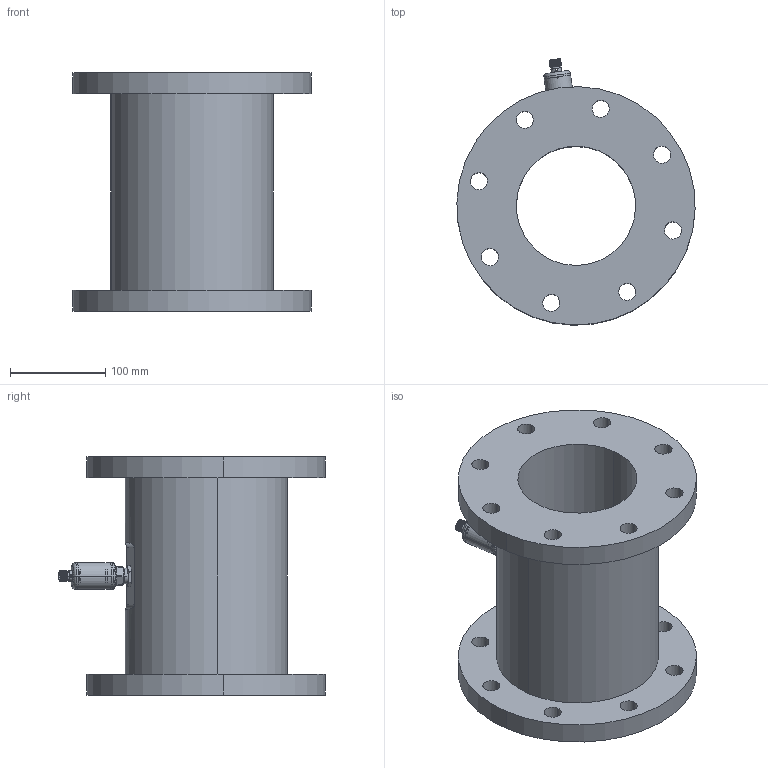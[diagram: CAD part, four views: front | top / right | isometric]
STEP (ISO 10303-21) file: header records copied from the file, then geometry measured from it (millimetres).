
FILE_DESCRIPTION (( 'STEP AP214' ), '1' );
FILE_NAME ('BFW1C125-J.STEP', '2026-01-20T06:31:04', ( '' ), ( '' ), 'SwSTEP 2.0', 'SolidWorks 2023', '' );
FILE_SCHEMA (( 'AUTOMOTIVE_DESIGN' ));
Length unit declared in the file: millimetre
Products named in the file (8): 压力变送器; DN125法兰-华东; M16螺母; 连接管; BFW1C125-J; 壳体; 探头; 垫片
Assembly tree (7 placements, depth 3):
  BFW1C125-J
    压力变送器
      壳体
      垫片
      连接管
      探头
    M16螺母
    DN125法兰-华东
Bounding box: 249.88 x 279.48 x 250 mm (x, y, z)
Volume: 3675125.3 mm3; surface area: 399820.6 mm2
Topology: 6 solids, 6 shells, 291 faces, 756 edges, 491 vertices
Faces by surface type: cylinder 179, cone 48, plane 47, bspline 9, torus 8
Entity records: 14711 total; most frequent: CARTESIAN_POINT 7689, ORIENTED_EDGE 1512, DIRECTION 1348, EDGE_CURVE 756, AXIS2_PLACEMENT_3D 544, VERTEX_POINT 491, EDGE_LOOP 357, ADVANCED_FACE 291
